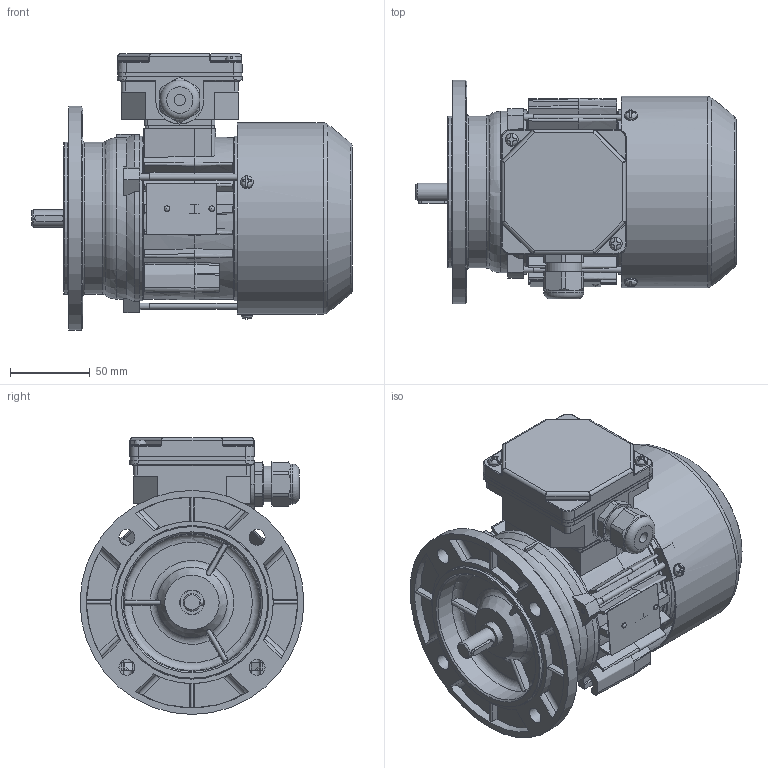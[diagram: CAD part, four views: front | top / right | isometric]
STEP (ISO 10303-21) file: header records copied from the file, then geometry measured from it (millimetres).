
FILE_DESCRIPTION( ( 'Unknown' ), '1' );
FILE_NAME( 'G:/Poczta Tk-1/STP/w.m.63/Sh63/SKh63-A.stp', 'Unknown', ( 'K. Szlosek' ), ( 'BESEL S.A.' ), 'PSStep 17.0.49', 'Unknown', ' ' );
FILE_SCHEMA( ( 'AUTOMOTIVE_DESIGN { 1 0 10303 214 1 1 1 1 }' ) );
Length unit declared in the file: millimetre
Products named in the file (29): Assem1; K2-0860 Pokrywka skrzynki zaciskowej; K3-9973 Kadłub ze stojanem wykończonym Sh63-B; Wpust A4x4x18; K3-5320 Tarcza łożyskowa P Sg63; Wkręt samogwintujący M4x8; K3-9974 Wał Sh63-B; K2-1769 Przewietrznik Sg63; K4-2320 Uszczelka nr 1 Sh71,80; K4-2820 Uszczelka nr 2 Sh71,80; Wkręt samogwintujący M4x16; Nitokołek A 2x6; K3-11364 osłona przewietrznika Sh63-A; Łożysko 6202; Śruba ściągająca E_M4x80; K2-0859 Podstawa skrzynki 6-cio zaciskowej; Dławnica M20x1,5; Tabliczka znamionowa 32x44; K1-1110 Tarcza kołnierzowa nowa SKg63-..
Assembly tree (45 placements, depth 2):
  Assem1
    K2-0860 Pokrywka skrzynki zaciskowej
    K3-9973 Kadłub ze stojanem wykończonym Sh63-B
    Wpust A4x4x18
    K3-5320 Tarcza łożyskowa P Sg63
    Wkręt samogwintujący M4x8  x3
    K3-9974 Wał Sh63-B
    K2-1769 Przewietrznik Sg63
    K4-2320 Uszczelka nr 1 Sh71,80
    K4-2820 Uszczelka nr 2 Sh71,80
    Wkręt samogwintujący M4x16  x2
    Nitokołek A 2x6  x2
    K3-11364 osłona przewietrznika Sh63-A
    Łożysko 6202  x2
    Łożysko 6202  x2
    Łożysko 6202  x2
    Łożysko 6202  x2
    Łożysko 6202  x2
    Łożysko 6202  x2
    Łożysko 6202  x2
    Łożysko 6202  x2
    Łożysko 6202  x2
    Łożysko 6202  x2
    Łożysko 6202  x2
    Śruba ściągająca E_M4x80  x3
    K2-0859 Podstawa skrzynki 6-cio zaciskowej
    Dławnica M20x1,5
    Tabliczka znamionowa 32x44
    K1-1110 Tarcza kołnierzowa nowa SKg63-..
Bounding box: 200.3 x 140 x 173 mm (x, y, z)
Volume: 513602 mm3; surface area: 347553.4 mm2
Topology: 45 solids, 63 shells, 1843 faces, 5056 edges, 3280 vertices
Faces by surface type: plane 922, cylinder 545, cone 128, torus 112, bspline 97, sphere 39
Full cylindrical faces by diameter (mm): 2 x2, 2.4 x2, 3.3 x3, 3.7 x10, 4 x8, 4.5 x4, 4.8 x4, 5 x4, 7 x4, 8 x6, 10 x4, 11 x1, 12.9 x1, 13.1 x1, 13.5 x1, 15 x4, 15.4 x2, 18.376 x1, 18.38 x1, 19 x2, 19.5 x1, 20 x2, 20.1 x1, 21.52 x4, 22.3 x1, 25 x1, 28 x2, 28.48 x4, 31 x2, 35 x4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
Entity records: 79197 total; most frequent: CARTESIAN_POINT 24913, ORIENTED_EDGE 8676, DIRECTION 8370, EDGE_CURVE 4338, AXIS2_PLACEMENT_3D 3117, VERTEX_POINT 2958, LINE 2136, VECTOR 2136
